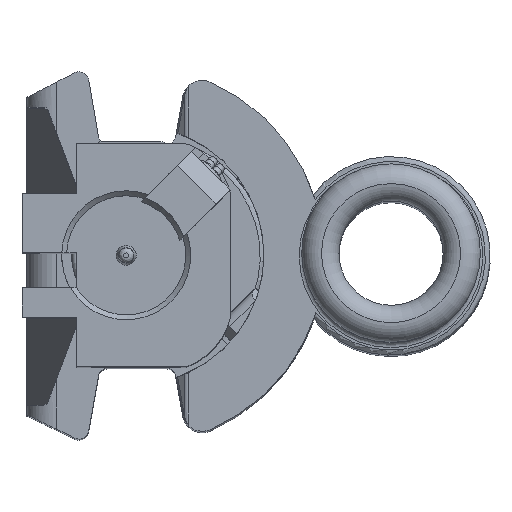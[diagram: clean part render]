
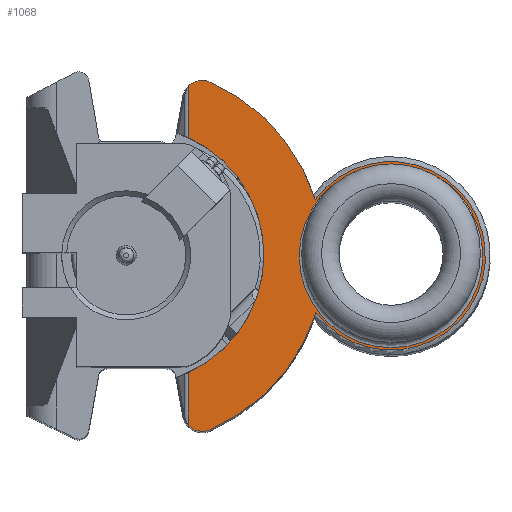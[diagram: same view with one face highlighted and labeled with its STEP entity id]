
A CAD part, top view. The second image highlights one B-rep face of the part: STEP entity #1068.
In plain terms, the highlighted planar face has unit normal (0, 0, 1).
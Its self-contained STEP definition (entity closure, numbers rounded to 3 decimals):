
#841=CARTESIAN_POINT('',(-20.445,-11.77,0.0));
#842=VERTEX_POINT('',#841);
#862=CARTESIAN_POINT('',(-20.445,-17.049,0.0));
#863=VERTEX_POINT('',#862);
#875=CARTESIAN_POINT('',(-20.445,-17.049,0.0));
#876=DIRECTION('',(0.0,1.0,0.0));
#877=VECTOR('',#876,5.279);
#878=LINE('',#875,#877);
#879=EDGE_CURVE('',#863,#842,#878,.T.);
#916=CARTESIAN_POINT('',(-20.255,-17.245,0.0));
#917=VERTEX_POINT('',#916);
#925=CARTESIAN_POINT('',(-20.255,-17.245,0.));
#926=CARTESIAN_POINT('',(-20.326,-17.188,0.));
#927=CARTESIAN_POINT('',(-20.39,-17.122,0.));
#928=CARTESIAN_POINT('',(-20.445,-17.049,0.));
#929=B_SPLINE_CURVE_WITH_KNOTS('',3,(#925,#926,#927,#928),.UNSPECIFIED.,.F.,.U.,(4,4),(0.0,0.027),.UNSPECIFIED.);
#930=EDGE_CURVE('',#917,#863,#929,.T.);
#979=CARTESIAN_POINT('',(-18.118,0.03,0.0));
#980=DIRECTION('',(0.0,0.0,1.0));
#981=DIRECTION('',(1.0,0.0,0.0));
#982=AXIS2_PLACEMENT_3D('',#979,#980,#981);
#983=PLANE('',#982);
#984=ORIENTED_EDGE('',*,*,#879,.F.);
#985=ORIENTED_EDGE('',*,*,#930,.F.);
#986=CARTESIAN_POINT('',(-18.225,-17.51,0.0));
#987=VERTEX_POINT('',#986);
#988=CARTESIAN_POINT('',(-19.017,-15.674,0.0));
#989=DIRECTION('',(0.0,0.0,-1.));
#990=DIRECTION('',(-0.475,-0.88,0.0));
#991=AXIS2_PLACEMENT_3D('',#988,#989,#990);
#992=CIRCLE('',#991,2.);
#993=EDGE_CURVE('',#987,#917,#992,.T.);
#994=ORIENTED_EDGE('',*,*,#993,.F.);
#995=CARTESIAN_POINT('',(-7.565,-5.746,0.0));
#996=VERTEX_POINT('',#995);
#997=CARTESIAN_POINT('',(-25.813,0.077,0.0));
#998=DIRECTION('',(0.0,0.0,-1.));
#999=DIRECTION('',(0.943,-0.334,0.0));
#1000=AXIS2_PLACEMENT_3D('',#997,#998,#999);
#1001=CIRCLE('',#1000,19.154);
#1002=EDGE_CURVE('',#996,#987,#1001,.T.);
#1003=ORIENTED_EDGE('',*,*,#1002,.F.);
#1004=CARTESIAN_POINT('',(-7.641,5.645,0.0));
#1005=VERTEX_POINT('',#1004);
#1006=CARTESIAN_POINT('',(0.0,0.0,0.0));
#1007=DIRECTION('',(0.0,0.0,-1.));
#1008=DIRECTION('',(1.,0.006,0.0));
#1009=AXIS2_PLACEMENT_3D('',#1006,#1007,#1008);
#1010=CIRCLE('',#1009,9.5);
#1011=EDGE_CURVE('',#1005,#996,#1010,.T.);
#1012=ORIENTED_EDGE('',*,*,#1011,.F.);
#1013=CARTESIAN_POINT('',(-18.219,17.5,0.0));
#1014=VERTEX_POINT('',#1013);
#1015=CARTESIAN_POINT('',(-25.813,0.077,0.0));
#1016=DIRECTION('',(0.0,0.0,-1.));
#1017=DIRECTION('',(0.276,0.961,0.0));
#1018=AXIS2_PLACEMENT_3D('',#1015,#1016,#1017);
#1019=CIRCLE('',#1018,19.006);
#1020=EDGE_CURVE('',#1014,#1005,#1019,.T.);
#1021=ORIENTED_EDGE('',*,*,#1020,.F.);
#1022=CARTESIAN_POINT('',(-20.254,17.239,0.0));
#1023=VERTEX_POINT('',#1022);
#1024=CARTESIAN_POINT('',(-19.018,15.667,0.0));
#1025=DIRECTION('',(0.0,0.0,-1.));
#1026=DIRECTION('',(-0.473,0.881,0.0));
#1027=AXIS2_PLACEMENT_3D('',#1024,#1025,#1026);
#1028=CIRCLE('',#1027,2.0);
#1029=EDGE_CURVE('',#1023,#1014,#1028,.T.);
#1030=ORIENTED_EDGE('',*,*,#1029,.F.);
#1031=CARTESIAN_POINT('',(-20.445,17.044,0.0));
#1032=VERTEX_POINT('',#1031);
#1033=CARTESIAN_POINT('',(-20.445,17.043,0.));
#1034=CARTESIAN_POINT('',(-20.39,17.117,0.));
#1035=CARTESIAN_POINT('',(-20.326,17.183,0.));
#1036=CARTESIAN_POINT('',(-20.254,17.239,0.));
#1037=B_SPLINE_CURVE_WITH_KNOTS('',3,(#1033,#1034,#1035,#1036),.UNSPECIFIED.,.F.,.U.,(4,4),(0.064,0.091),.UNSPECIFIED.);
#1038=EDGE_CURVE('',#1032,#1023,#1037,.T.);
#1039=ORIENTED_EDGE('',*,*,#1038,.F.);
#1040=CARTESIAN_POINT('',(-20.445,11.924,0.0));
#1041=VERTEX_POINT('',#1040);
#1042=CARTESIAN_POINT('',(-20.445,11.924,0.0));
#1043=DIRECTION('',(0.0,1.0,0.0));
#1044=VECTOR('',#1043,5.12);
#1045=LINE('',#1042,#1044);
#1046=EDGE_CURVE('',#1041,#1032,#1045,.T.);
#1047=ORIENTED_EDGE('',*,*,#1046,.F.);
#1048=CARTESIAN_POINT('',(-25.813,0.077,0.0));
#1049=DIRECTION('',(0.0,0.0,-1.0));
#1050=DIRECTION('',(0.0,1.0,0.0));
#1051=AXIS2_PLACEMENT_3D('',#1048,#1049,#1050);
#1052=CIRCLE('',#1051,13.006);
#1053=EDGE_CURVE('',#1041,#842,#1052,.T.);
#1054=ORIENTED_EDGE('',*,*,#1053,.T.);
#1055=EDGE_LOOP('',(#984,#985,#994,#1003,#1012,#1021,#1030,#1039,#1047,#1054));
#1056=FACE_OUTER_BOUND('',#1055,.T.);
#1057=CARTESIAN_POINT('',(9.25,0.,0.0));
#1058=VERTEX_POINT('',#1057);
#1059=CARTESIAN_POINT('',(0.0,0.0,0.0));
#1060=DIRECTION('',(0.0,0.0,1.0));
#1061=DIRECTION('',(-1.0,0.0,0.0));
#1062=AXIS2_PLACEMENT_3D('',#1059,#1060,#1061);
#1063=CIRCLE('',#1062,9.25);
#1064=EDGE_CURVE('',#1058,#1058,#1063,.T.);
#1065=ORIENTED_EDGE('',*,*,#1064,.F.);
#1066=EDGE_LOOP('',(#1065));
#1067=FACE_BOUND('',#1066,.T.);
#1068=ADVANCED_FACE('',(#1056,#1067),#983,.T.);
